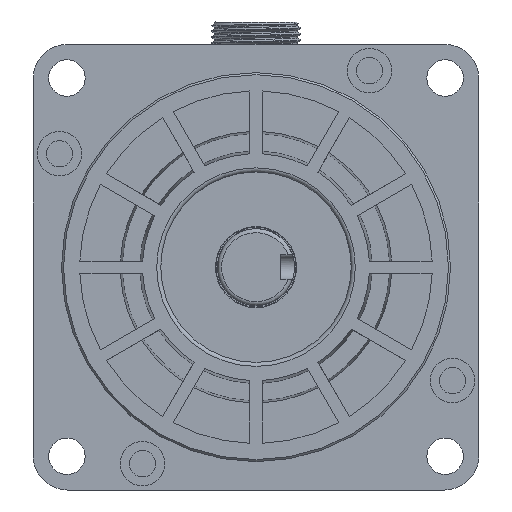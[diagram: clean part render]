
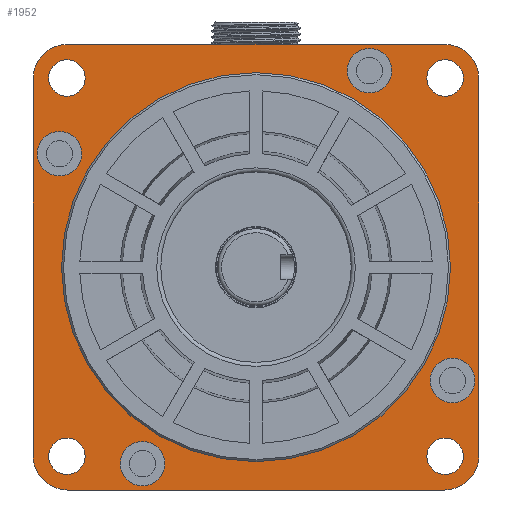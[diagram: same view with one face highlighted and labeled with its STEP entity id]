
A CAD part, front view. The second image highlights one B-rep face of the part: STEP entity #1952.
In plain terms, the highlighted planar face has unit normal (0, -1, 0).
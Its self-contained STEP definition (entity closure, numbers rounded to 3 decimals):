
#407=LINE('',#14171,#865);
#491=LINE('',#14543,#949);
#492=LINE('',#14544,#950);
#493=LINE('',#14548,#951);
#865=VECTOR('',#9242,1.);
#949=VECTOR('',#9566,1.);
#950=VECTOR('',#9567,1.);
#951=VECTOR('',#9570,1.);
#1952=ADVANCED_FACE('',(#2396,#2397,#2398,#2399,#2400,#2401,#2402,#2403,
#2404,#2405),#2201,.T.);
#2201=PLANE('',#7720);
#2396=FACE_BOUND('',#2831,.T.);
#2397=FACE_BOUND('',#2832,.T.);
#2398=FACE_BOUND('',#2833,.T.);
#2399=FACE_BOUND('',#2834,.T.);
#2400=FACE_BOUND('',#2835,.T.);
#2401=FACE_BOUND('',#2836,.T.);
#2402=FACE_BOUND('',#2837,.T.);
#2403=FACE_BOUND('',#2838,.T.);
#2404=FACE_BOUND('',#2839,.T.);
#2405=FACE_BOUND('',#2840,.T.);
#2831=EDGE_LOOP('',(#4409));
#2832=EDGE_LOOP('',(#4410));
#2833=EDGE_LOOP('',(#4411));
#2834=EDGE_LOOP('',(#4412));
#2835=EDGE_LOOP('',(#4413,#4414,#4415,#4416,#4417,#4418,#4419,#4420));
#2836=EDGE_LOOP('',(#4421));
#2837=EDGE_LOOP('',(#4422));
#2838=EDGE_LOOP('',(#4423));
#2839=EDGE_LOOP('',(#4424));
#2840=EDGE_LOOP('',(#4425));
#4409=ORIENTED_EDGE('',*,*,#6485,.T.);
#4410=ORIENTED_EDGE('',*,*,#6486,.T.);
#4411=ORIENTED_EDGE('',*,*,#6487,.T.);
#4412=ORIENTED_EDGE('',*,*,#6488,.T.);
#4413=ORIENTED_EDGE('',*,*,#6489,.T.);
#4414=ORIENTED_EDGE('',*,*,#6490,.F.);
#4415=ORIENTED_EDGE('',*,*,#6224,.T.);
#4416=ORIENTED_EDGE('',*,*,#6317,.F.);
#4417=ORIENTED_EDGE('',*,*,#6220,.T.);
#4418=ORIENTED_EDGE('',*,*,#6491,.F.);
#4419=ORIENTED_EDGE('',*,*,#6492,.T.);
#4420=ORIENTED_EDGE('',*,*,#6493,.F.);
#4421=ORIENTED_EDGE('',*,*,#6227,.T.);
#4422=ORIENTED_EDGE('',*,*,#6226,.T.);
#4423=ORIENTED_EDGE('',*,*,#6484,.F.);
#4424=ORIENTED_EDGE('',*,*,#6494,.T.);
#4425=ORIENTED_EDGE('',*,*,#6495,.T.);
#5390=VERTEX_POINT('',#13764);
#5391=VERTEX_POINT('',#13765);
#5392=VERTEX_POINT('',#13770);
#5393=VERTEX_POINT('',#13772);
#5394=VERTEX_POINT('',#13776);
#5395=VERTEX_POINT('',#13779);
#5560=VERTEX_POINT('',#14530);
#5561=VERTEX_POINT('',#14533);
#5562=VERTEX_POINT('',#14535);
#5563=VERTEX_POINT('',#14537);
#5564=VERTEX_POINT('',#14539);
#5565=VERTEX_POINT('',#14541);
#5566=VERTEX_POINT('',#14542);
#5567=VERTEX_POINT('',#14545);
#5568=VERTEX_POINT('',#14547);
#5569=VERTEX_POINT('',#14550);
#5570=VERTEX_POINT('',#14552);
#6220=EDGE_CURVE('',#5390,#5391,#6902,.T.);
#6224=EDGE_CURVE('',#5393,#5392,#6903,.T.);
#6226=EDGE_CURVE('',#5394,#5394,#6904,.T.);
#6227=EDGE_CURVE('',#5395,#5395,#6905,.T.);
#6317=EDGE_CURVE('',#5390,#5392,#407,.T.);
#6484=EDGE_CURVE('',#5560,#5560,#7001,.T.);
#6485=EDGE_CURVE('',#5561,#5561,#7002,.T.);
#6486=EDGE_CURVE('',#5562,#5562,#7003,.T.);
#6487=EDGE_CURVE('',#5563,#5563,#7004,.T.);
#6488=EDGE_CURVE('',#5564,#5564,#7005,.T.);
#6489=EDGE_CURVE('',#5565,#5566,#7006,.T.);
#6490=EDGE_CURVE('',#5393,#5566,#491,.T.);
#6491=EDGE_CURVE('',#5567,#5391,#492,.T.);
#6492=EDGE_CURVE('',#5567,#5568,#7007,.T.);
#6493=EDGE_CURVE('',#5565,#5568,#493,.T.);
#6494=EDGE_CURVE('',#5569,#5569,#7008,.T.);
#6495=EDGE_CURVE('',#5570,#5570,#7009,.T.);
#6902=CIRCLE('',#7534,8.5);
#6903=CIRCLE('',#7536,8.5);
#6904=CIRCLE('',#7538,5.5);
#6905=CIRCLE('',#7540,5.5);
#7001=CIRCLE('',#7710,48.);
#7002=CIRCLE('',#7712,4.5);
#7003=CIRCLE('',#7713,4.5);
#7004=CIRCLE('',#7714,4.5);
#7005=CIRCLE('',#7715,4.5);
#7006=CIRCLE('',#7716,8.5);
#7007=CIRCLE('',#7717,8.5);
#7008=CIRCLE('',#7718,5.5);
#7009=CIRCLE('',#7719,5.5);
#7534=AXIS2_PLACEMENT_3D('',#13763,#9071,#9072);
#7536=AXIS2_PLACEMENT_3D('',#13771,#9078,#9079);
#7538=AXIS2_PLACEMENT_3D('',#13775,#9083,#9084);
#7540=AXIS2_PLACEMENT_3D('',#13778,#9087,#9088);
#7710=AXIS2_PLACEMENT_3D('',#14529,#9552,#9553);
#7712=AXIS2_PLACEMENT_3D('',#14532,#9556,#9557);
#7713=AXIS2_PLACEMENT_3D('',#14534,#9558,#9559);
#7714=AXIS2_PLACEMENT_3D('',#14536,#9560,#9561);
#7715=AXIS2_PLACEMENT_3D('',#14538,#9562,#9563);
#7716=AXIS2_PLACEMENT_3D('',#14540,#9564,#9565);
#7717=AXIS2_PLACEMENT_3D('',#14546,#9568,#9569);
#7718=AXIS2_PLACEMENT_3D('',#14549,#9571,#9572);
#7719=AXIS2_PLACEMENT_3D('',#14551,#9573,#9574);
#7720=AXIS2_PLACEMENT_3D('',#14553,#9575,#9576);
#9071=DIRECTION('',(0.,-1.,0.));
#9072=DIRECTION('',(-1.,0.,0.));
#9078=DIRECTION('',(0.,-1.,0.));
#9079=DIRECTION('',(-1.,0.,0.));
#9083=DIRECTION('',(0.,1.,0.));
#9084=DIRECTION('',(-1.,0.,0.));
#9087=DIRECTION('',(0.,1.,0.));
#9088=DIRECTION('',(-1.,0.,0.));
#9242=DIRECTION('',(0.,0.,1.));
#9552=DIRECTION('',(0.,-1.,0.));
#9553=DIRECTION('',(-1.,0.,0.));
#9556=DIRECTION('',(0.,1.,0.));
#9557=DIRECTION('',(-1.,0.,0.));
#9558=DIRECTION('',(0.,1.,0.));
#9559=DIRECTION('',(-1.,0.,0.));
#9560=DIRECTION('',(0.,1.,0.));
#9561=DIRECTION('',(-1.,0.,0.));
#9562=DIRECTION('',(0.,1.,0.));
#9563=DIRECTION('',(-1.,0.,0.));
#9564=DIRECTION('',(0.,-1.,0.));
#9565=DIRECTION('',(-1.,0.,0.));
#9566=DIRECTION('',(1.,0.,0.));
#9567=DIRECTION('',(-1.,0.,0.));
#9568=DIRECTION('',(0.,-1.,0.));
#9569=DIRECTION('',(-1.,0.,0.));
#9570=DIRECTION('',(0.,0.,-1.));
#9571=DIRECTION('',(0.,1.,0.));
#9572=DIRECTION('',(-1.,0.,0.));
#9573=DIRECTION('',(0.,1.,0.));
#9574=DIRECTION('',(-1.,0.,0.));
#9575=DIRECTION('',(0.,-1.,0.));
#9576=DIRECTION('',(1.,0.,0.));
#13763=CARTESIAN_POINT('',(57.438,-291.466,-252.534));
#13764=CARTESIAN_POINT('',(48.938,-291.466,-252.534));
#13765=CARTESIAN_POINT('',(57.438,-291.466,-261.034));
#13770=CARTESIAN_POINT('',(48.938,-291.466,-159.534));
#13771=CARTESIAN_POINT('',(57.438,-291.466,-159.534));
#13772=CARTESIAN_POINT('',(57.438,-291.466,-151.034));
#13775=CARTESIAN_POINT('',(55.44,-291.466,-178.034));
#13776=CARTESIAN_POINT('',(49.94,-291.466,-178.034));
#13778=CARTESIAN_POINT('',(75.938,-291.466,-254.531));
#13779=CARTESIAN_POINT('',(70.438,-291.466,-254.531));
#14171=CARTESIAN_POINT('',(48.938,-291.466,-206.034));
#14529=CARTESIAN_POINT('',(103.938,-291.466,-206.034));
#14530=CARTESIAN_POINT('',(55.938,-291.466,-206.034));
#14532=CARTESIAN_POINT('',(150.607,-291.466,-159.365));
#14533=CARTESIAN_POINT('',(146.107,-291.466,-159.365));
#14534=CARTESIAN_POINT('',(57.268,-291.466,-159.365));
#14535=CARTESIAN_POINT('',(52.768,-291.466,-159.365));
#14536=CARTESIAN_POINT('',(57.268,-291.466,-252.703));
#14537=CARTESIAN_POINT('',(52.768,-291.466,-252.703));
#14538=CARTESIAN_POINT('',(150.607,-291.466,-252.703));
#14539=CARTESIAN_POINT('',(146.107,-291.466,-252.703));
#14540=CARTESIAN_POINT('',(150.438,-291.466,-159.534));
#14541=CARTESIAN_POINT('',(158.938,-291.466,-159.534));
#14542=CARTESIAN_POINT('',(150.438,-291.466,-151.034));
#14543=CARTESIAN_POINT('',(103.938,-291.466,-151.034));
#14544=CARTESIAN_POINT('',(103.938,-291.466,-261.034));
#14545=CARTESIAN_POINT('',(150.438,-291.466,-261.034));
#14546=CARTESIAN_POINT('',(150.438,-291.466,-252.534));
#14547=CARTESIAN_POINT('',(158.938,-291.466,-252.534));
#14548=CARTESIAN_POINT('',(158.938,-291.466,-206.034));
#14549=CARTESIAN_POINT('',(152.435,-291.466,-234.034));
#14550=CARTESIAN_POINT('',(146.935,-291.466,-234.034));
#14551=CARTESIAN_POINT('',(131.938,-291.466,-157.536));
#14552=CARTESIAN_POINT('',(126.438,-291.466,-157.536));
#14553=CARTESIAN_POINT('',(103.938,-291.466,-206.034));
